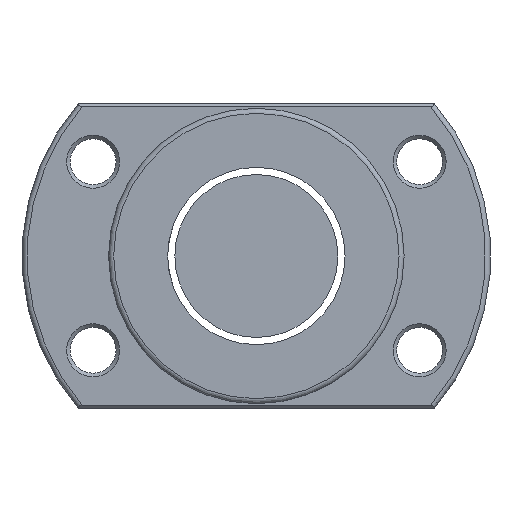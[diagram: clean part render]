
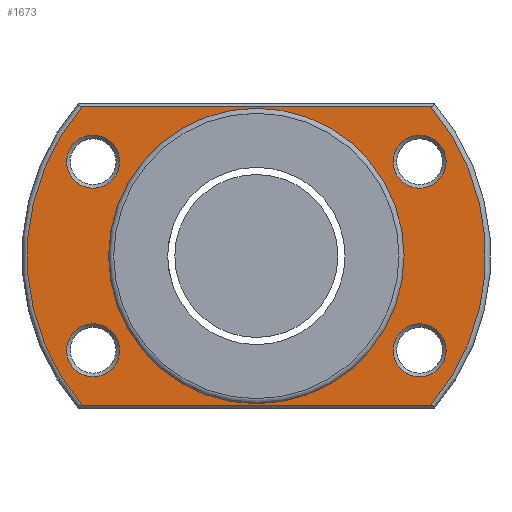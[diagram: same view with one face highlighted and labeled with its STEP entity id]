
A CAD part, left-side view. The second image highlights one B-rep face of the part: STEP entity #1673.
In plain terms, the highlighted planar face has unit normal (-1, 0, 0).
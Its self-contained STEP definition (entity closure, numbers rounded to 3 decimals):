
#1 = VERTEX_POINT ( 'NONE', #2322 ) ;
#51 = EDGE_CURVE ( 'NONE', #2717, #2717, #159, .T. ) ;
#91 = ORIENTED_EDGE ( 'NONE', *, *, #1771, .T. ) ;
#103 = DIRECTION ( 'NONE',  ( 1., 0., 0. ) ) ;
#105 = CIRCLE ( 'NONE', #249, 5.2 ) ;
#106 = ORIENTED_EDGE ( 'NONE', *, *, #2497, .T. ) ;
#116 = FACE_OUTER_BOUND ( 'NONE', #778, .T. ) ;
#159 = CIRCLE ( 'NONE', #1713, 5.2 ) ;
#200 = CIRCLE ( 'NONE', #2136, 29. ) ;
#249 = AXIS2_PLACEMENT_3D ( 'NONE', #2187, #103, #1748 ) ;
#293 = FACE_BOUND ( 'NONE', #2057, .T. ) ;
#296 = AXIS2_PLACEMENT_3D ( 'NONE', #1015, #787, #1921 ) ;
#297 = DIRECTION ( 'NONE',  ( 1., 0., 0. ) ) ;
#312 = FACE_BOUND ( 'NONE', #2142, .T. ) ;
#317 = EDGE_LOOP ( 'NONE', ( #2879 ) ) ;
#395 = DIRECTION ( 'NONE',  ( 0., 0., 1. ) ) ;
#437 = LINE ( 'NONE', #1825, #2613 ) ;
#476 = CARTESIAN_POINT ( 'NONE',  ( -93., -32.043, -13.3 ) ) ;
#552 = DIRECTION ( 'NONE',  ( 1., 0., 0. ) ) ;
#604 = DIRECTION ( 'NONE',  ( 0., 0., 1. ) ) ;
#766 = DIRECTION ( 'NONE',  ( 0., 0., -1. ) ) ;
#778 = EDGE_LOOP ( 'NONE', ( #2697, #91, #1961, #2525 ) ) ;
#787 = DIRECTION ( 'NONE',  ( -1., 0., 0. ) ) ;
#798 = DIRECTION ( 'NONE',  ( 1., 0., 0. ) ) ;
#804 = DIRECTION ( 'NONE',  ( 0., 0., 1. ) ) ;
#849 = VERTEX_POINT ( 'NONE', #1534 ) ;
#918 = EDGE_CURVE ( 'NONE', #2491, #2491, #200, .T. ) ;
#942 = DIRECTION ( 'NONE',  ( 0., 1., 0. ) ) ;
#1015 = CARTESIAN_POINT ( 'NONE',  ( -93., 0., 0. ) ) ;
#1038 = EDGE_CURVE ( 'NONE', #849, #849, #1653, .T. ) ;
#1108 = EDGE_CURVE ( 'NONE', #2268, #1220, #2442, .T. ) ;
#1170 = EDGE_CURVE ( 'NONE', #1727, #1727, #1461, .T. ) ;
#1220 = VERTEX_POINT ( 'NONE', #2341 ) ;
#1275 = CARTESIAN_POINT ( 'NONE',  ( -93., 32.043, -18.5 ) ) ;
#1338 = CARTESIAN_POINT ( 'NONE',  ( -93., 0., -29. ) ) ;
#1461 = CIRCLE ( 'NONE', #2922, 5.2 ) ;
#1481 = EDGE_CURVE ( 'NONE', #1220, #1, #2727, .T. ) ;
#1504 = FACE_BOUND ( 'NONE', #1797, .T. ) ;
#1514 = AXIS2_PLACEMENT_3D ( 'NONE', #1275, #552, #2193 ) ;
#1534 = CARTESIAN_POINT ( 'NONE',  ( -93., 32.043, -13.3 ) ) ;
#1556 = DIRECTION ( 'NONE',  ( -1., 0., 0. ) ) ;
#1619 = CIRCLE ( 'NONE', #296, 45. ) ;
#1653 = CIRCLE ( 'NONE', #1514, 5.2 ) ;
#1673 = ADVANCED_FACE ( 'NONE', ( #293, #1504, #2199, #312, #1937, #116 ), #2917, .T. ) ;
#1691 = CARTESIAN_POINT ( 'NONE',  ( -93., 0., 0. ) ) ;
#1696 = DIRECTION ( 'NONE',  ( -1., 0., 0. ) ) ;
#1713 = AXIS2_PLACEMENT_3D ( 'NONE', #2842, #297, #804 ) ;
#1727 = VERTEX_POINT ( 'NONE', #2657 ) ;
#1739 = CARTESIAN_POINT ( 'NONE',  ( -93., 46., -29.3 ) ) ;
#1748 = DIRECTION ( 'NONE',  ( 0., 0., 1. ) ) ;
#1753 = CARTESIAN_POINT ( 'NONE',  ( -93., 34.154, -29.3 ) ) ;
#1771 = EDGE_CURVE ( 'NONE', #2190, #2268, #1619, .T. ) ;
#1797 = EDGE_LOOP ( 'NONE', ( #106 ) ) ;
#1804 = AXIS2_PLACEMENT_3D ( 'NONE', #2986, #1556, #395 ) ;
#1825 = CARTESIAN_POINT ( 'NONE',  ( -93., 46., 29.3 ) ) ;
#1851 = AXIS2_PLACEMENT_3D ( 'NONE', #2868, #1696, #604 ) ;
#1913 = EDGE_LOOP ( 'NONE', ( #2085 ) ) ;
#1921 = DIRECTION ( 'NONE',  ( 0., 0., 1. ) ) ;
#1931 = CARTESIAN_POINT ( 'NONE',  ( -93., -32.043, 18.5 ) ) ;
#1937 = FACE_BOUND ( 'NONE', #1913, .T. ) ;
#1961 = ORIENTED_EDGE ( 'NONE', *, *, #1108, .T. ) ;
#2057 = EDGE_LOOP ( 'NONE', ( #2206 ) ) ;
#2085 = ORIENTED_EDGE ( 'NONE', *, *, #918, .T. ) ;
#2136 = AXIS2_PLACEMENT_3D ( 'NONE', #1691, #798, #766 ) ;
#2141 = ORIENTED_EDGE ( 'NONE', *, *, #51, .T. ) ;
#2142 = EDGE_LOOP ( 'NONE', ( #2141 ) ) ;
#2186 = VECTOR ( 'NONE', #2374, 1000. ) ;
#2187 = CARTESIAN_POINT ( 'NONE',  ( -93., -32.043, -18.5 ) ) ;
#2190 = VERTEX_POINT ( 'NONE', #2927 ) ;
#2193 = DIRECTION ( 'NONE',  ( 0., 0., 1. ) ) ;
#2199 = FACE_BOUND ( 'NONE', #317, .T. ) ;
#2206 = ORIENTED_EDGE ( 'NONE', *, *, #1038, .T. ) ;
#2241 = DIRECTION ( 'NONE',  ( 1., 0., 0. ) ) ;
#2268 = VERTEX_POINT ( 'NONE', #1753 ) ;
#2322 = CARTESIAN_POINT ( 'NONE',  ( -93., -34.154, 29.3 ) ) ;
#2341 = CARTESIAN_POINT ( 'NONE',  ( -93., -34.154, -29.3 ) ) ;
#2374 = DIRECTION ( 'NONE',  ( 0., -1., 0. ) ) ;
#2442 = LINE ( 'NONE', #1739, #2186 ) ;
#2461 = CARTESIAN_POINT ( 'NONE',  ( -93., 32.043, 23.7 ) ) ;
#2491 = VERTEX_POINT ( 'NONE', #1338 ) ;
#2497 = EDGE_CURVE ( 'NONE', #2978, #2978, #105, .T. ) ;
#2525 = ORIENTED_EDGE ( 'NONE', *, *, #1481, .T. ) ;
#2613 = VECTOR ( 'NONE', #942, 1000. ) ;
#2657 = CARTESIAN_POINT ( 'NONE',  ( -93., -32.043, 23.7 ) ) ;
#2697 = ORIENTED_EDGE ( 'NONE', *, *, #2844, .T. ) ;
#2717 = VERTEX_POINT ( 'NONE', #2461 ) ;
#2727 = CIRCLE ( 'NONE', #1804, 45. ) ;
#2730 = DIRECTION ( 'NONE',  ( 0., 0., 1. ) ) ;
#2842 = CARTESIAN_POINT ( 'NONE',  ( -93., 32.043, 18.5 ) ) ;
#2844 = EDGE_CURVE ( 'NONE', #1, #2190, #437, .T. ) ;
#2868 = CARTESIAN_POINT ( 'NONE',  ( -93., 46., 0. ) ) ;
#2879 = ORIENTED_EDGE ( 'NONE', *, *, #1170, .T. ) ;
#2917 = PLANE ( 'NONE',  #1851 ) ;
#2922 = AXIS2_PLACEMENT_3D ( 'NONE', #1931, #2241, #2730 ) ;
#2927 = CARTESIAN_POINT ( 'NONE',  ( -93., 34.154, 29.3 ) ) ;
#2978 = VERTEX_POINT ( 'NONE', #476 ) ;
#2986 = CARTESIAN_POINT ( 'NONE',  ( -93., 0., 0. ) ) ;
